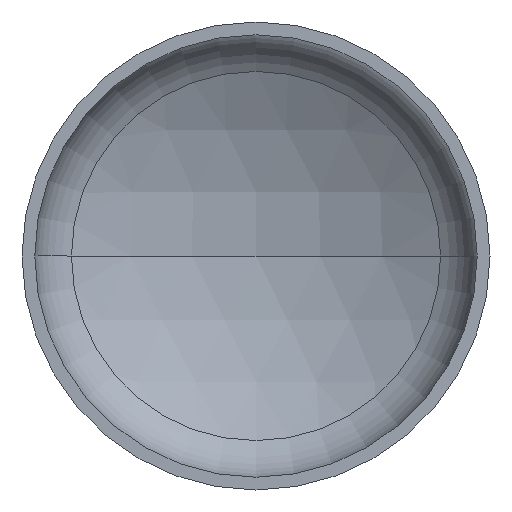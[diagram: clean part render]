
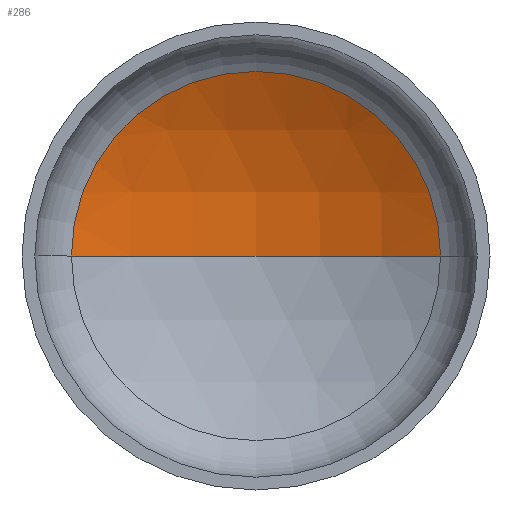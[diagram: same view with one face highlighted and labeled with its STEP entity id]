
A CAD part, front view. The second image highlights one B-rep face of the part: STEP entity #286.
In plain terms, the highlighted spherical face has radius 1760 mm.
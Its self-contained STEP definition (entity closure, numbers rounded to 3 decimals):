
#7 = ORIENTED_EDGE ( 'NONE', *, *, #364, .F. ) ;
#16 = AXIS2_PLACEMENT_3D ( 'NONE', #374, #158, #72 ) ;
#39 = CARTESIAN_POINT ( 'NONE',  ( 867.606, 415.818, 0. ) ) ;
#54 = AXIS2_PLACEMENT_3D ( 'NONE', #391, #394, #98 ) ;
#70 = VERTEX_POINT ( 'NONE', #301 ) ;
#72 = DIRECTION ( 'NONE',  ( 1., 0., 0. ) ) ;
#75 = AXIS2_PLACEMENT_3D ( 'NONE', #202, #225, #219 ) ;
#78 = AXIS2_PLACEMENT_3D ( 'NONE', #261, #210, #160 ) ;
#94 = EDGE_LOOP ( 'NONE', ( #7, #136, #141 ) ) ;
#98 = DIRECTION ( 'NONE',  ( -1., 0., 0. ) ) ;
#136 = ORIENTED_EDGE ( 'NONE', *, *, #153, .T. ) ;
#141 = ORIENTED_EDGE ( 'NONE', *, *, #144, .T. ) ;
#144 = EDGE_CURVE ( 'NONE', #253, #70, #401, .T. ) ;
#146 = VERTEX_POINT ( 'NONE', #235 ) ;
#153 = EDGE_CURVE ( 'NONE', #146, #253, #157, .T. ) ;
#157 = CIRCLE ( 'NONE', #75, 1760. ) ;
#158 = DIRECTION ( 'NONE',  ( 0., 0., 1. ) ) ;
#160 = DIRECTION ( 'NONE',  ( 1., 0., 0. ) ) ;
#198 = SPHERICAL_SURFACE ( 'NONE', #54, 1760. ) ;
#202 = CARTESIAN_POINT ( 'NONE',  ( 0., -1115.476, 0. ) ) ;
#210 = DIRECTION ( 'NONE',  ( 0., -1., 0. ) ) ;
#219 = DIRECTION ( 'NONE',  ( -1., 0., 0. ) ) ;
#225 = DIRECTION ( 'NONE',  ( 0., 0., -1. ) ) ;
#235 = CARTESIAN_POINT ( 'NONE',  ( 0., 644.524, 0. ) ) ;
#252 = CIRCLE ( 'NONE', #16, 1760. ) ;
#253 = VERTEX_POINT ( 'NONE', #39 ) ;
#261 = CARTESIAN_POINT ( 'NONE',  ( 0., 415.818, 0. ) ) ;
#286 = ADVANCED_FACE ( 'NONE', ( #326 ), #198, .F. ) ;
#301 = CARTESIAN_POINT ( 'NONE',  ( -867.606, 415.818, 0. ) ) ;
#326 = FACE_OUTER_BOUND ( 'NONE', #94, .T. ) ;
#364 = EDGE_CURVE ( 'NONE', #146, #70, #252, .T. ) ;
#374 = CARTESIAN_POINT ( 'NONE',  ( 0., -1115.476, 0. ) ) ;
#391 = CARTESIAN_POINT ( 'NONE',  ( 0., -1115.476, 0. ) ) ;
#394 = DIRECTION ( 'NONE',  ( 0., 0., -1. ) ) ;
#401 = CIRCLE ( 'NONE', #78, 867.606 ) ;
